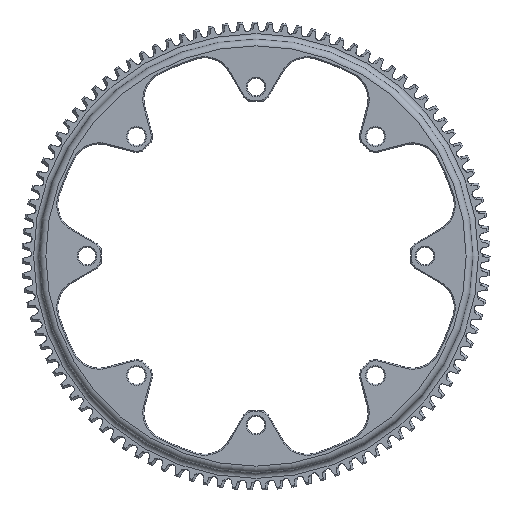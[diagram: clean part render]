
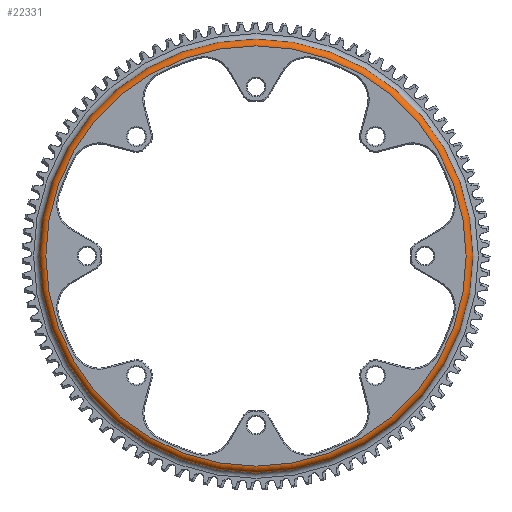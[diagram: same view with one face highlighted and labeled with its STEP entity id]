
A CAD part, left-side view. The second image highlights one B-rep face of the part: STEP entity #22331.
In plain terms, the highlighted toroidal (fillet/blend) face has major radius 96.012 mm and minor radius 3.048 mm.
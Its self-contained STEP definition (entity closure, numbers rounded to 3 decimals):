
#988=TOROIDAL_SURFACE('',#24671,96.012,3.048);
#9454=ORIENTED_EDGE('',*,*,#12735,.F.);
#9455=ORIENTED_EDGE('',*,*,#15344,.T.);
#12735=EDGE_CURVE('',#16087,#16087,#18315,.T.);
#15344=EDGE_CURVE('',#18093,#18093,#18834,.T.);
#16087=VERTEX_POINT('',#32681);
#18093=VERTEX_POINT('',#40200);
#18315=CIRCLE('',#23248,96.012);
#18834=CIRCLE('',#24670,99.06);
#19556=EDGE_LOOP('',(#9454));
#19557=EDGE_LOOP('',(#9455));
#20818=FACE_BOUND('',#19556,.T.);
#20819=FACE_BOUND('',#19557,.T.);
#22331=ADVANCED_FACE('',(#20818,#20819),#988,.T.);
#23248=AXIS2_PLACEMENT_3D('',#32680,#26141,#26142);
#24670=AXIS2_PLACEMENT_3D('',#40199,#29979,#29980);
#24671=AXIS2_PLACEMENT_3D('',#40201,#29981,#29982);
#26141=DIRECTION('',(-1.,0.,0.));
#26142=DIRECTION('',(0.,0.,1.));
#29979=DIRECTION('',(-1.,0.,0.));
#29980=DIRECTION('',(0.,0.,1.));
#29981=DIRECTION('',(-1.,0.,0.));
#29982=DIRECTION('',(0.,0.,1.));
#32680=CARTESIAN_POINT('',(0.,0.,0.));
#32681=CARTESIAN_POINT('',(0.,0.,96.012));
#40199=CARTESIAN_POINT('',(3.048,0.,0.));
#40200=CARTESIAN_POINT('',(3.048,0.,99.06));
#40201=CARTESIAN_POINT('',(3.048,0.,0.));
